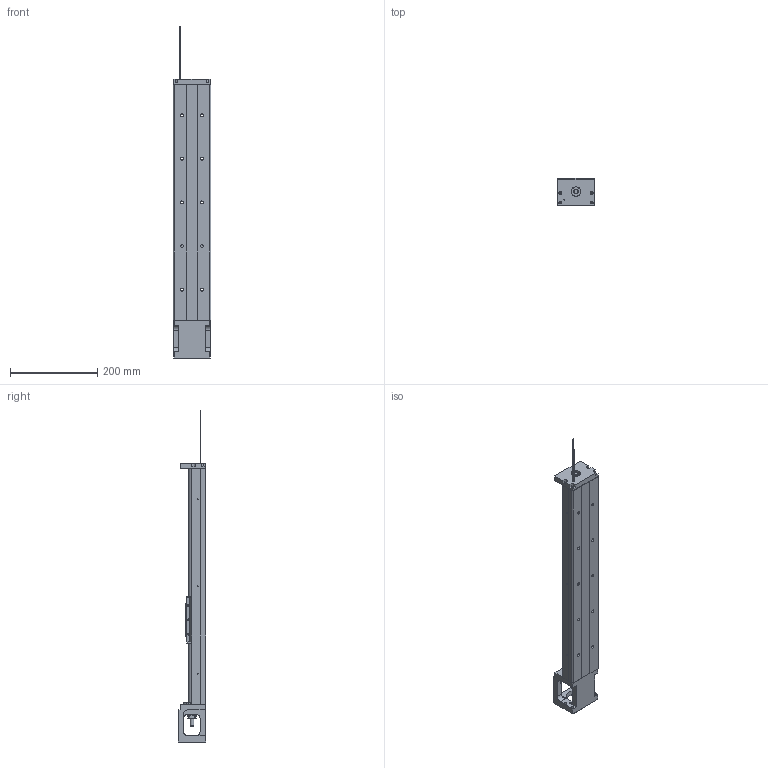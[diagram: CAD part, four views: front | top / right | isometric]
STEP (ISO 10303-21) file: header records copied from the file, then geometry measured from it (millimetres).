
FILE_DESCRIPTION(/* description */ (''),/* implementation_level */ '2;1');
FILE_NAME(/* name */ 'KP46N-540.stp',/* time_stamp */ '2020-06-05T09:52:23+08:00',/* author */ (''),/* organization */ (''),/* preprocessor_version */ 'ST-DEVELOPER v14',/* originating_system */ 'SIEMENS PLM Software NX 8.0',/* authorisation */ '');
FILE_SCHEMA (('AUTOMOTIVE_DESIGN { 1 0 10303 214 3 1 1 1 }'));
Length unit declared in the file: millimetre
Products named in the file (1): model1
Bounding box: 86 x 64 x 761.89 mm (x, y, z)
Volume: 1359755.9 mm3; surface area: 287735.8 mm2
Topology: 7 solids, 20 shells, 637 faces, 1668 edges, 1096 vertices
Faces by surface type: plane 292, cylinder 225, cone 65, bspline 47, torus 8
Full cylindrical faces by diameter (mm): 2.11 x4, 2.15 x6, 2.42 x8, 3 x6, 3.2 x4, 3.3 x8, 3.4 x8, 4.2 x4, 4.5 x8, 5 x10, 6 x8, 6.35 x2, 6.6 x10, 8 x1, 9.6 x1, 10 x3, 11 x10, 12 x1, 14.95 x2, 15 x1, 16 x2, 22 x3, 27.5 x1, 44 x1, 50 x1
Entity records: 29614 total; most frequent: CARTESIAN_POINT 12632, ORIENTED_EDGE 2830, DIRECTION 2764, EDGE_CURVE 1415, AXIS2_PLACEMENT_3D 1028, VERTEX_POINT 1020, EDGE_LOOP 890, LINE 708
